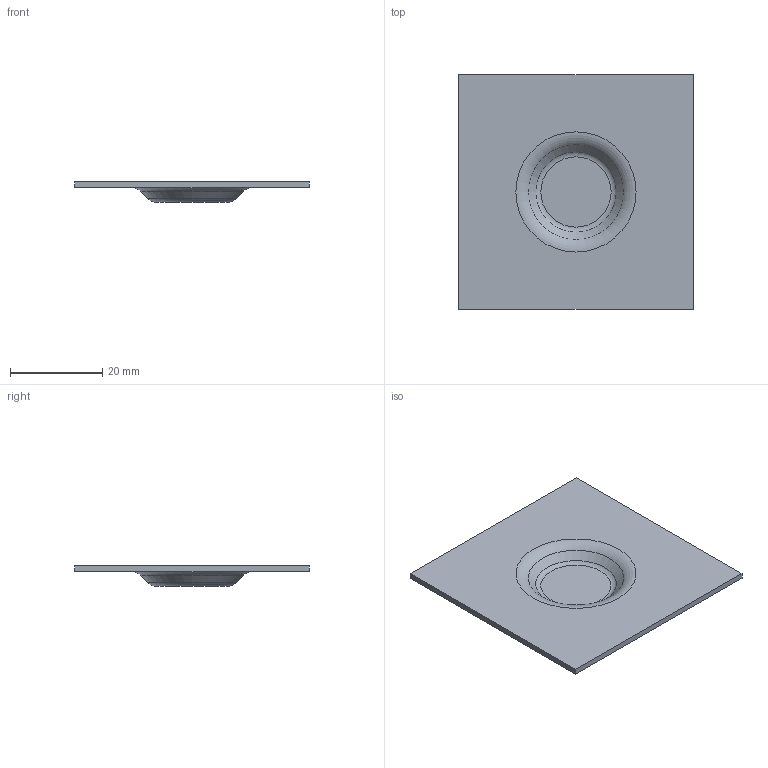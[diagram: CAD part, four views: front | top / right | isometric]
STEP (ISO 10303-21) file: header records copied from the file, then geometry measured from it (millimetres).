
FILE_DESCRIPTION(('PART XYZ REV A'),'1');
FILE_NAME('EF12','2012-03-30T15:39:08',('ERIC'),('TRIAX'),'Spatial Interop R21 SP3','Kubotek KeyCreator 2011 V10.5.0 (24766)','CHAZ');
FILE_SCHEMA(('CONFIG_CONTROL_DESIGN'));
Length unit declared in the file: inch
Products named in the file (1): 1
Bounding box: 50.82 x 50.8 x 4.45 mm (x, y, z)
Volume: 3365.3 mm3; surface area: 5557.9 mm2
Topology: 1 solids, 1 shells, 14 faces, 28 edges, 18 vertices
Faces by surface type: plane 8, torus 4, cone 2
Entity records: 360 total; most frequent: DIRECTION 58, CARTESIAN_POINT 51, ORIENTED_EDGE 40, AXIS2_PLACEMENT_3D 23, EDGE_LOOP 22, EDGE_CURVE 20, VERTEX_POINT 16, ADVANCED_FACE 14
